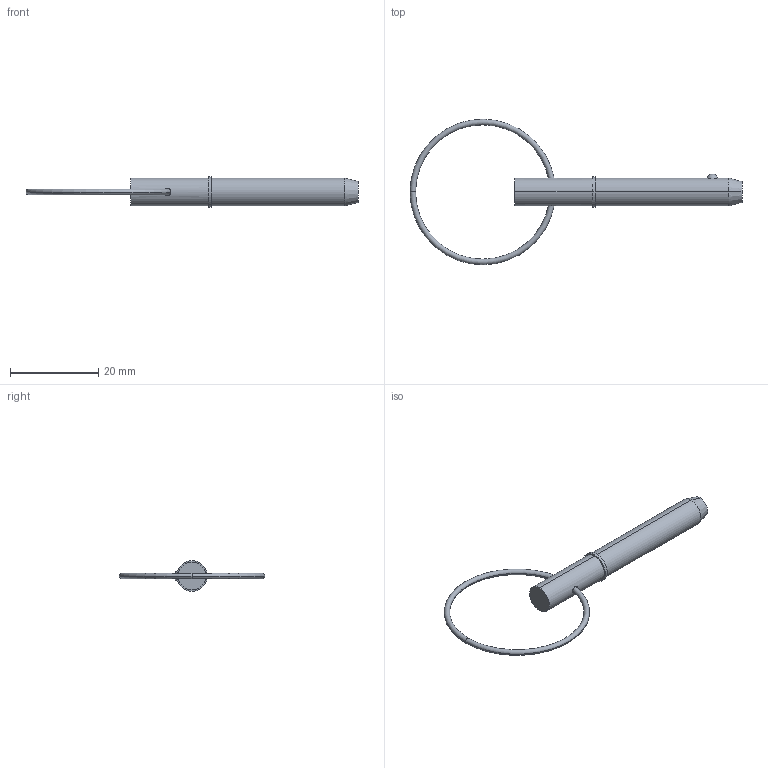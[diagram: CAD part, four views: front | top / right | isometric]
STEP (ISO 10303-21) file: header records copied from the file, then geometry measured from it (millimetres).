
FILE_DESCRIPTION (( 'STEP AP203' ), '1' );
FILE_NAME ('33014.W2510.step', '2024-11-04T08:23:26', ( '' ), ( '' ), 'SwSTEP 2.0', 'SolidWorks 2019', '' );
FILE_SCHEMA (( 'CONFIG_CONTROL_DESIGN' ));
Length unit declared in the file: millimetre
Products named in the file (3): Part1_33014.W2510; Part2_33014.W2510; 33014.W2510
Assembly tree (2 placements, depth 2):
  33014.W2510
    Part1_33014.W2510
    Part2_33014.W2510
Bounding box: 75.34 x 33.02 x 6.99 mm (x, y, z)
Volume: 1733.6 mm3; surface area: 1516.6 mm2
Topology: 2 solids, 2 shells, 22 faces, 43 edges, 26 vertices
Faces by surface type: torus 8, cylinder 6, plane 4, sphere 2, cone 2
Entity records: 975 total; most frequent: CARTESIAN_POINT 198, DIRECTION 120, ORIENTED_EDGE 86, AXIS2_PLACEMENT_3D 56, EDGE_CURVE 43, CIRCLE 29, EDGE_LOOP 27, VERTEX_POINT 26
